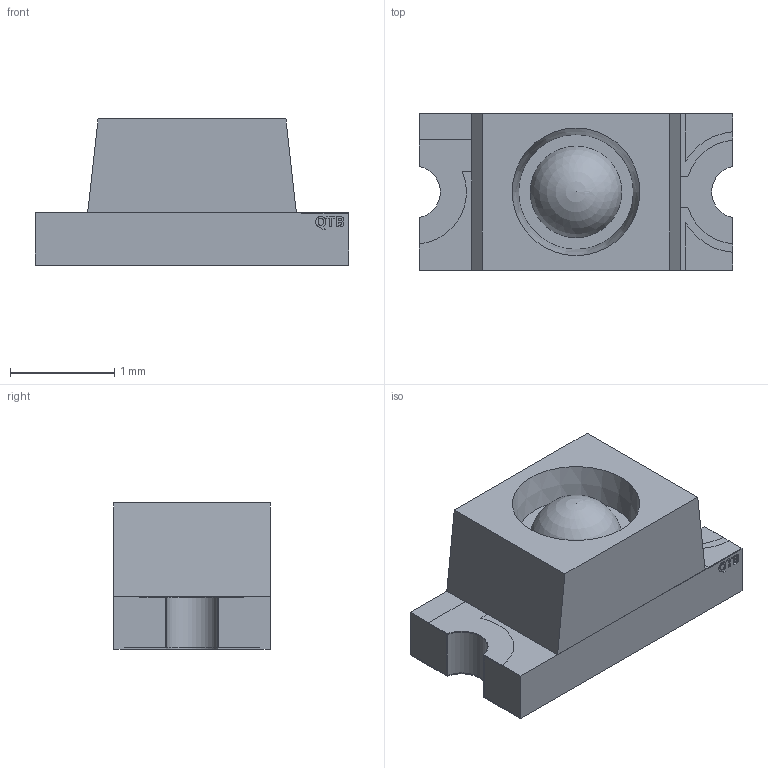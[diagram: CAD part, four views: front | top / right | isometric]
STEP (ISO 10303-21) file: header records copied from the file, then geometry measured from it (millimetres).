
FILE_DESCRIPTION(/* description */ (''),/* implementation_level */ '2;1');
FILE_NAME(/* name */ '5fab0e77a422af0e7fe96e18',/* time_stamp */ '2020-11-10T22:04:40+00:00',/* author */ (''),/* organization */ (''),/* preprocessor_version */ 'ST-DEVELOPER v16.7',/* originating_system */ $,/* authorisation */ $);
FILE_SCHEMA (('AUTOMOTIVE_DESIGN {1 0 10303 214 3 1 1}'));
Length unit declared in the file: metre
Products named in the file (11): QBLP651; Side Pad 1; Bottom Pad 1; Side Pad 2; Top Polarity 2b; Resin; Top Pad 1; Bottom Pad 2; Top Pad 2; Substrate; Top Polarity 2a
Assembly tree (10 placements, depth 2):
  QBLP651
    Side Pad 1
    Bottom Pad 1
    Side Pad 2
    Top Polarity 2b
    Resin
    Top Pad 1
    Bottom Pad 2
    Top Pad 2
    Substrate
    Top Polarity 2a
Bounding box: 3 x 1.5 x 1.4 mm (x, y, z)
Volume: 4.5 mm3; surface area: 33.4 mm2
Topology: 10 solids, 10 shells, 160 faces, 399 edges, 266 vertices
Faces by surface type: plane 109, bspline 29, cylinder 20, cone 1, sphere 1
Entity records: 5089 total; most frequent: CARTESIAN_POINT 1151, ORIENTED_EDGE 792, DIRECTION 665, EDGE_CURVE 396, LINE 295, VECTOR 295, VERTEX_POINT 265, AXIS2_PLACEMENT_3D 185
